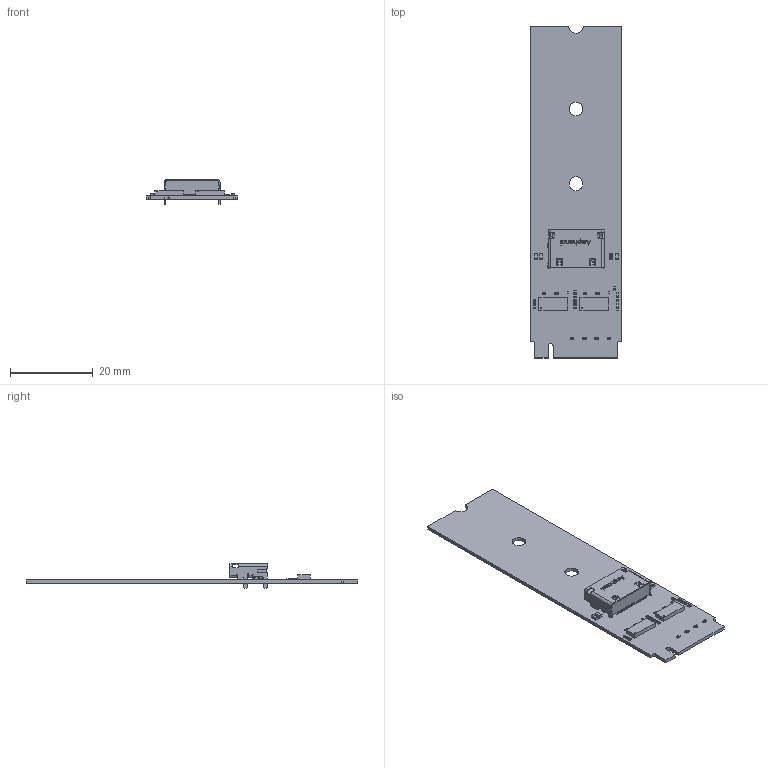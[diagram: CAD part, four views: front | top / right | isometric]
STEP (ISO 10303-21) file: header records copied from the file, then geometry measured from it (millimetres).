
FILE_DESCRIPTION(('Open CASCADE Model'),'2;1');
FILE_NAME('Open CASCADE Shape Model','2026-08-03T10:50:15',('Author'),( 'Open CASCADE'),'Open CASCADE STEP processor 7.5','Open CASCADE 7.5' ,'Unknown');
FILE_SCHEMA(('AUTOMOTIVE_DESIGN { 1 0 10303 214 1 1 1 1 }'));
Length unit declared in the file: millimetre
Products named in the file (69): PCB; Board; Open CASCADE STEP translator 7.5 2.1.1; C27; C0603_060; U2; 6679146128; Open CASCADE STEP translator 7.5 4.1; Body; Open CASCADE STEP translator 7.5 4.2.1; ball; U1; R15; R0201 AC0201; R14; 0603_RES; Capsule; Encapsulation; TopCover; R13; R12; R11; R10; R9; R8; R7; R6; R5; R4; R3; R2; R1; CN2; OcuLinkĸع; C26; C0201_020; C25; C24; C23; C22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
Assembly tree (246 placements, depth 5):
  PCB
    Board
      Open CASCADE STEP translator 7.5 2.1.1
    C27
      C0603_060
      C0603_060
      C0603_060
    U2
      6679146128
        Open CASCADE STEP translator 7.5 4.1
        Body
          Open CASCADE STEP translator 7.5 4.2.1
        ball  x49
    U1
      6679146128
        Open CASCADE STEP translator 7.5 4.1
        Body
          Open CASCADE STEP translator 7.5 4.2.1
        ball  x49
    R15
      R0201 AC0201
      R0201 AC0201
      R0201 AC0201
      R0201 AC0201
    R14
      0603_RES
        Capsule
        Encapsulation  x2
        TopCover
    R13
      R0201 AC0201
      R0201 AC0201
      R0201 AC0201
      R0201 AC0201
    R12
      R0201 AC0201
      R0201 AC0201
      R0201 AC0201
      R0201 AC0201
    R11
      R0201 AC0201
      R0201 AC0201
      R0201 AC0201
      R0201 AC0201
    R10
      R0201 AC0201
      R0201 AC0201
      R0201 AC0201
      R0201 AC0201
    R9
      R0201 AC0201
      R0201 AC0201
      R0201 AC0201
      R0201 AC0201
    R8
      R0201 AC0201
      R0201 AC0201
      R0201 AC0201
      R0201 AC0201
    R7
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Bounding box: 22 x 80 x 5.95 mm (x, y, z)
Volume: 2372.7 mm3; surface area: 6375 mm2
Topology: 245 solids, 247 shells, 6752 faces, 17180 edges, 10646 vertices
Faces by surface type: plane 5008, cylinder 1341, sphere 314, bspline 62, cone 27
Full cylindrical faces by diameter (mm): 0.362 x2, 1 x2, 3.3 x2
Entity records: 135644 total; most frequent: CARTESIAN_POINT 19426, ORIENTED_EDGE 17955, DIRECTION 17191, EDGE_CURVE 8978, LINE 7737, VECTOR 7737, VERTEX_POINT 5672, AXIS2_PLACEMENT_3D 4727
